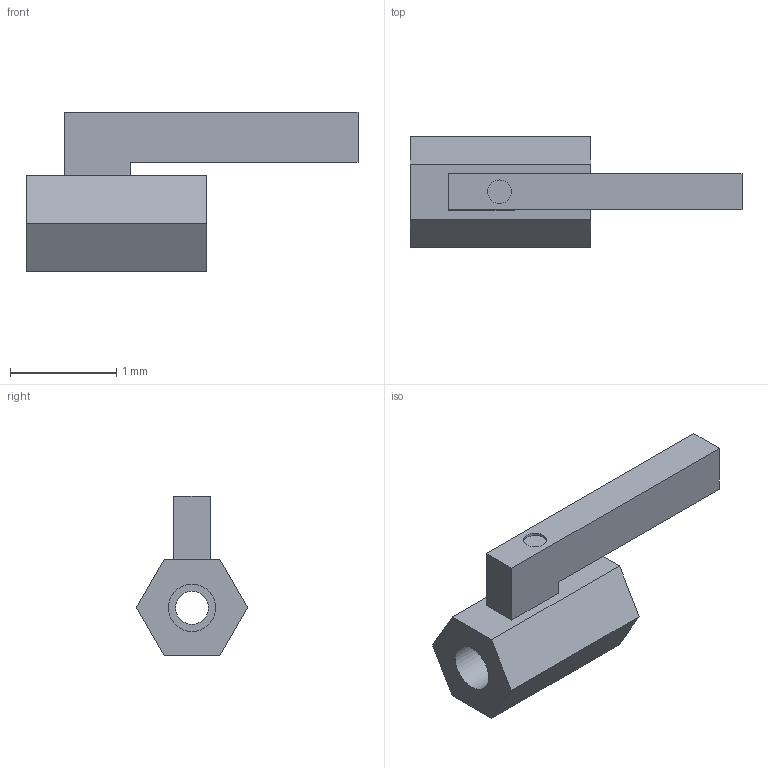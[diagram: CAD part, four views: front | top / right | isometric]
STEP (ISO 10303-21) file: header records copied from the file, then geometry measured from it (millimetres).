
FILE_DESCRIPTION(('Open CASCADE Model'),'2;1');
FILE_NAME('Open CASCADE Shape Model','2021-09-23T14:12:29',('Author'),( 'Open CASCADE'),'Open CASCADE STEP processor 7.3','Open CASCADE 7.3' ,'Unknown');
FILE_SCHEMA(('AUTOMOTIVE_DESIGN { 1 0 10303 214 1 1 1 1 }'));
Length unit declared in the file: millimetre
Products named in the file (1): Open CASCADE STEP translator 7.3 1
Bounding box: 3.12 x 1.05 x 1.5 mm (x, y, z)
Volume: 1.5 mm3; surface area: 13.3 mm2
Topology: 1 solids, 1 shells, 22 faces, 48 edges, 32 vertices
Faces by surface type: plane 18, cylinder 4
Full cylindrical faces by diameter (mm): 0.223 x1, 0.31 x1, 0.445 x2
Entity records: 1246 total; most frequent: CARTESIAN_POINT 227, DIRECTION 190, LINE 124, VECTOR 124, ORIENTED_EDGE 96, PCURVE 96, DEFINITIONAL_REPRESENTATION 96, EDGE_CURVE 48
